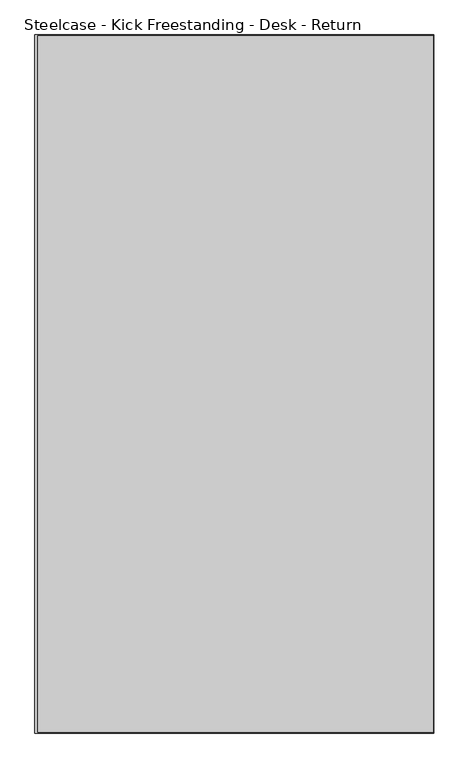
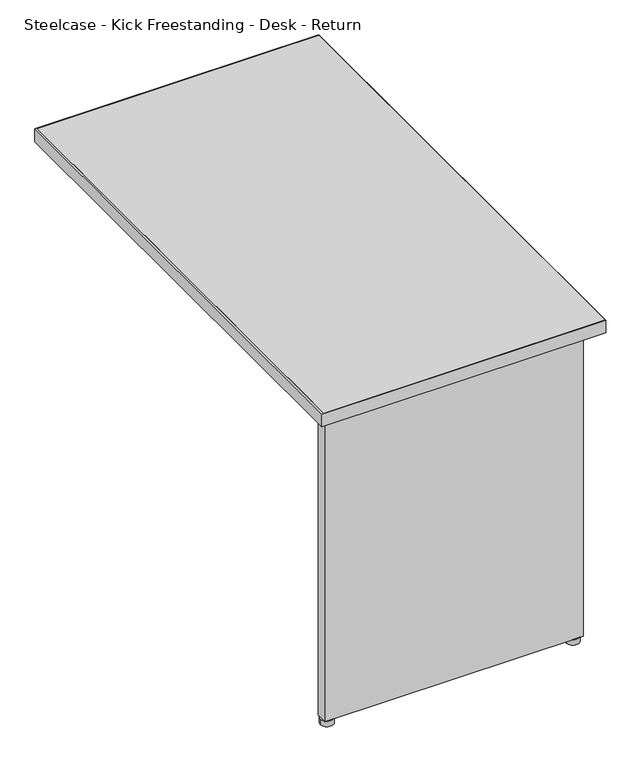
"""IFC4 building model written with IfcOpenShell, lengths in millimetres: furniture geometry, Steelcase - Kick Freestanding - Desk - Return : 24D x 42W - Right."""

from ifc_helpers import new_model, si_unit, point, frame, frame_2d, origin, origin_with_axes, place, context, project, spatial, polyline, circle_curve, trimmed, segment, composite_curve, outline, extrude, source, transform, mapped, element, save


def steelcase_kick_freestanding_desk_return_3ce51fed(model_context):
    return source(origin(), model_context, "Body", "SweptSolid", [
        extrude(outline(composite_curve([segment(trimmed(circle_curve(frame_2d((2107.4714425, -1588.2145152)), 13.97), [point((2121.4414425, -1588.2145152))], [point((2093.5014425, -1588.2145152))], False, "CARTESIAN"), True, "CONTINUOUS"), segment(trimmed(circle_curve(frame_2d((2107.4714425, -1588.2145152)), 13.97), [point((2093.5014425, -1588.2145152))], [point((2121.4414425, -1588.2145152))], False, "CARTESIAN"), True, "CONTINUOUS")], self_intersect=False)), origin_with_axes(), (0.0, 0.0, 1.0), 12.7),
        extrude(outline(composite_curve([segment(trimmed(circle_curve(frame_2d((1579.6594425, -1588.2145152)), 13.97), [point((1593.6294425, -1588.2145152))], [point((1565.6894425, -1588.2145152))], False, "CARTESIAN"), True, "CONTINUOUS"), segment(trimmed(circle_curve(frame_2d((1579.6594425, -1588.2145152)), 13.97), [point((1565.6894425, -1588.2145152))], [point((1593.6294425, -1588.2145152))], False, "CARTESIAN"), True, "CONTINUOUS")], self_intersect=False)), origin_with_axes(), (0.0, 0.0, 1.0), 12.7),
        extrude(outline(polyline([(2122.7114425, -1575.6669152), (2122.7114425, -1600.1525098), (1568.2294473, -1600.1525098), (1568.2294473, -1575.6669041), (1691.2670317, -1575.6669041), (1691.2670317, -1598.0951136), (1790.9874347, -1598.0951136), (1790.9874347, -1575.6669041), (1899.7248382, -1575.6669041), (1899.7248382, -1598.0951136), (1999.4452412, -1598.0951136), (1999.4452412, -1575.6669152), (2122.7114425, -1575.6669152)])), frame((0.0, 0.0, 12.7), z_axis=(0.0, 0.0, 1.0), x_axis=(1.0, 0.0, 0.0)), (0.0, 0.0, 1.0), 682.244),
        extrude(outline(polyline([(1558.5012257, -548.0845152), (2162.8688425, -548.0845152), (2162.8688425, -1612.3445152), (1558.5012257, -1612.3445152), (1558.5012257, -548.0845152)])), frame((0.0, 0.0, 694.944), z_axis=(0.0, 0.0, 1.0), x_axis=(1.0, 0.0, 0.0)), (0.0, 0.0, 1.0), 28.956),
        extrude(outline(polyline([(1554.2594425, -546.8145152), (2163.8594425, -546.8145152), (2163.8594425, -1613.6145152), (1554.2594425, -1613.6145152), (1554.2594425, -546.8145152)]), holes=[polyline([(1558.5012257, -548.0845152), (1558.5012257, -1612.3445152), (2162.8688425, -1612.3445152), (2162.8688425, -548.0845152), (1558.5012257, -548.0845152)])]), frame((0.0, 0.0, 694.944), z_axis=(0.0, 0.0, 1.0), x_axis=(1.0, 0.0, 0.0)), (0.0, 0.0, 1.0), 28.956),
    ])


if __name__ == "__main__":
    model = new_model("IFC4")
    model_context = context("Model", 3, world=origin())
    ifc_project = project(units=[si_unit("LENGTHUNIT", "METRE", prefix="MILLI")], contexts=[model_context])
    site = spatial("IfcSite", under=ifc_project)
    building = spatial("IfcBuilding", under=site)
    placement = place(None, origin())
    steelcase_kick_freestanding_desk_return_shape = steelcase_kick_freestanding_desk_return_3ce51fed(model_context)
    element("IfcFurniture", 1, ObjectType="Steelcase - Kick Freestanding - Desk - Return : 24D x 42W - Right", at=placement, inside=building, context=model_context, shape_type="MappedRepresentation", body=[
        mapped(steelcase_kick_freestanding_desk_return_shape, transform((0.0, 0.0, 0.0), x_axis=(1.0, 0.0, 0.0), y_axis=(0.0, 1.0, 0.0), z_axis=(0.0, 0.0, 1.0))),
    ])
    save(model, "model.ifc")
